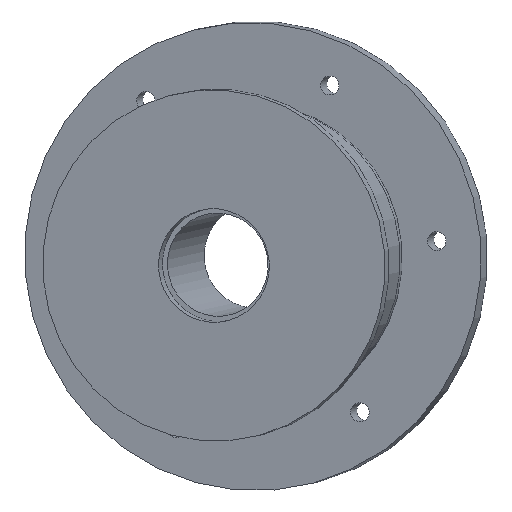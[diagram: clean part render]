
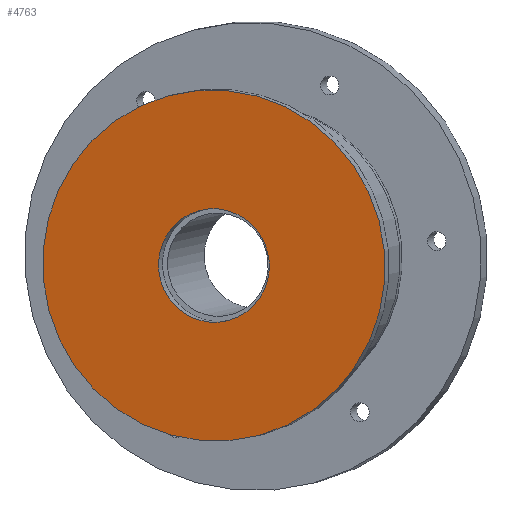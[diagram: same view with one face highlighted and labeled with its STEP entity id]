
A CAD part, isometric view. The second image highlights one B-rep face of the part: STEP entity #4763.
In plain terms, the highlighted planar face has unit normal (-0.742, -0.423, 0.52).
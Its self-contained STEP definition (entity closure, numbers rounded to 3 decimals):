
#4597 = VERTEX_POINT('',#4598);
#4598 = CARTESIAN_POINT('',(-148.925,-46.911,
    464.123));
#4605 = CYLINDRICAL_SURFACE('',#4606,51.);
#4606 = AXIS2_PLACEMENT_3D('',#4607,#4608,#4609);
#4607 = CARTESIAN_POINT('',(-174.465,-44.798,
    419.747));
#4608 = DIRECTION('',(0.742,0.423,-0.52));
#4609 = DIRECTION('',(0.574,0.,0.819));
#4624 = EDGE_CURVE('',#4597,#4597,#4625,.T.);
#4625 = SURFACE_CURVE('',#4626,(#4631,#4638),.PCURVE_S1.);
#4626 = CIRCLE('',#4627,51.);
#4627 = AXIS2_PLACEMENT_3D('',#4628,#4629,#4630);
#4628 = CARTESIAN_POINT('',(-178.177,-46.911,
    422.346));
#4629 = DIRECTION('',(-0.742,-0.423,0.52));
#4630 = DIRECTION('',(0.574,0.,0.819));
#4631 = PCURVE('',#4605,#4632);
#4632 = DEFINITIONAL_REPRESENTATION('',(#4633),#4637);
#4633 = LINE('',#4634,#4635);
#4634 = CARTESIAN_POINT('',(-0.,-5.));
#4635 = VECTOR('',#4636,1.);
#4636 = DIRECTION('',(-1.,0.));
#4637 = ( GEOMETRIC_REPRESENTATION_CONTEXT(2) 
PARAMETRIC_REPRESENTATION_CONTEXT() REPRESENTATION_CONTEXT('2D SPACE',''
  ) );
#4638 = PCURVE('',#4639,#4644);
#4639 = PLANE('',#4640);
#4640 = AXIS2_PLACEMENT_3D('',#4641,#4642,#4643);
#4641 = CARTESIAN_POINT('',(-178.177,-46.911,
    422.346));
#4642 = DIRECTION('',(-0.742,-0.423,0.52));
#4643 = DIRECTION('',(0.574,0.,0.819));
#4644 = DEFINITIONAL_REPRESENTATION('',(#4645),#4649);
#4645 = CIRCLE('',#4646,51.);
#4646 = AXIS2_PLACEMENT_2D('',#4647,#4648);
#4647 = CARTESIAN_POINT('',(0.,0.));
#4648 = DIRECTION('',(1.,0.));
#4649 = ( GEOMETRIC_REPRESENTATION_CONTEXT(2) 
PARAMETRIC_REPRESENTATION_CONTEXT() REPRESENTATION_CONTEXT('2D SPACE',''
  ) );
#4685 = VERTEX_POINT('',#4686);
#4686 = CARTESIAN_POINT('',(-168.713,-46.911,
    435.862));
#4693 = CYLINDRICAL_SURFACE('',#4694,16.5);
#4694 = AXIS2_PLACEMENT_3D('',#4695,#4696,#4697);
#4695 = CARTESIAN_POINT('',(-174.465,-44.798,
    419.747));
#4696 = DIRECTION('',(0.742,0.423,-0.52));
#4697 = DIRECTION('',(0.574,0.,0.819));
#4712 = EDGE_CURVE('',#4685,#4685,#4713,.T.);
#4713 = SURFACE_CURVE('',#4714,(#4719,#4726),.PCURVE_S1.);
#4714 = CIRCLE('',#4715,16.5);
#4715 = AXIS2_PLACEMENT_3D('',#4716,#4717,#4718);
#4716 = CARTESIAN_POINT('',(-178.177,-46.911,
    422.346));
#4717 = DIRECTION('',(-0.742,-0.423,0.52));
#4718 = DIRECTION('',(0.574,0.,0.819));
#4719 = PCURVE('',#4693,#4720);
#4720 = DEFINITIONAL_REPRESENTATION('',(#4721),#4725);
#4721 = LINE('',#4722,#4723);
#4722 = CARTESIAN_POINT('',(-0.,-5.));
#4723 = VECTOR('',#4724,1.);
#4724 = DIRECTION('',(-1.,0.));
#4725 = ( GEOMETRIC_REPRESENTATION_CONTEXT(2) 
PARAMETRIC_REPRESENTATION_CONTEXT() REPRESENTATION_CONTEXT('2D SPACE',''
  ) );
#4726 = PCURVE('',#4639,#4727);
#4727 = DEFINITIONAL_REPRESENTATION('',(#4728),#4732);
#4728 = CIRCLE('',#4729,16.5);
#4729 = AXIS2_PLACEMENT_2D('',#4730,#4731);
#4730 = CARTESIAN_POINT('',(0.,0.));
#4731 = DIRECTION('',(1.,0.));
#4732 = ( GEOMETRIC_REPRESENTATION_CONTEXT(2) 
PARAMETRIC_REPRESENTATION_CONTEXT() REPRESENTATION_CONTEXT('2D SPACE',''
  ) );
#4763 = ADVANCED_FACE('',(#4764,#4767),#4639,.T.);
#4764 = FACE_BOUND('',#4765,.T.);
#4765 = EDGE_LOOP('',(#4766));
#4766 = ORIENTED_EDGE('',*,*,#4624,.T.);
#4767 = FACE_BOUND('',#4768,.T.);
#4768 = EDGE_LOOP('',(#4769));
#4769 = ORIENTED_EDGE('',*,*,#4712,.F.);
